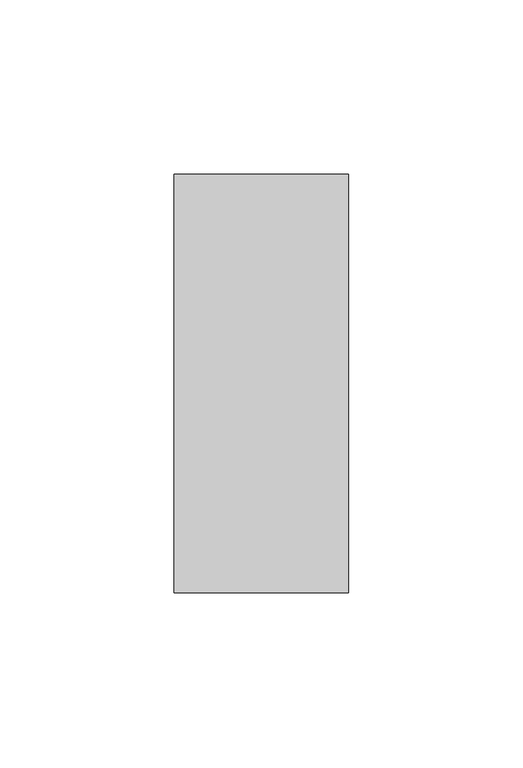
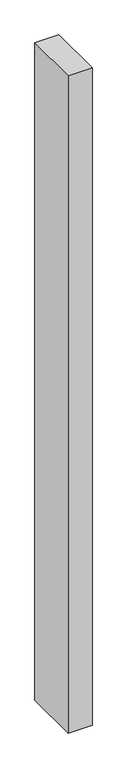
"""IFC4 building model written with IfcOpenShell, lengths in millimetres: member geometry, Прямоугольный импост : 50х120 мм."""

import ifcopenshell
import ifcopenshell.guid

model = None  # the IFC model being written
_history = None  # IfcOwnerHistory: only IFC2X3 demands one
_inside = {}  # id of a spatial element -> (the spatial element, [elements in it])
_under = {}  # id of a project, library or spatial element -> (it, [spatial elements below it])
_declared = {}  # id of a project -> (the project, [libraries it declares])
_typed = {}  # id of a type object -> (the type object, [elements of that type])
_made_of = {}  # id of a material, layer set ... -> (it, [elements and type objects made of it])


def new_model(schema):
    """Start an empty IFC model of exactly this schema.

    Asked for "IFC4X3", IfcOpenShell would pick the latest addendum, in which some entities
    have other attributes; the version numbers below select the first issue.
    IFC2X3 requires an IfcOwnerHistory on every rooted entity: one is made here for all.
    """
    global model, _history
    if schema == "IFC4X3":
        model = ifcopenshell.file(schema_version=(4, 3, 0, 0))
    else:
        model = ifcopenshell.file(schema=schema)
    _inside.clear()
    _under.clear()
    _declared.clear()
    _typed.clear()
    _made_of.clear()
    _history = None
    if model.schema == "IFC2X3":
        org = make("IfcOrganization", Name="unknown")
        user = make(
            "IfcPersonAndOrganization",
            ThePerson=make("IfcPerson", FamilyName="unknown"),
            TheOrganization=org,
        )
        app = make(
            "IfcApplication",
            ApplicationDeveloper=org,
            Version="unknown",
            ApplicationFullName="unknown",
            ApplicationIdentifier="unknown",
        )
        _history = make(
            "IfcOwnerHistory",
            OwningUser=user,
            OwningApplication=app,
            ChangeAction="ADDED",
            CreationDate=0,
        )
    return model


def make(cls, **values):
    """One entity of the class cls with the attributes given. An attribute that is None is left unset."""
    return model.create_entity(
        cls, **{name: value for name, value in values.items() if value is not None}
    )


def rooted(cls, **values):
    """An entity with a GlobalId (a new one), such as an element, a storey or a relation."""
    return make(cls, GlobalId=ifcopenshell.guid.new(), OwnerHistory=_history, **values)


def si_unit(unit_type, name, prefix=None):
    """IfcSIUnit, for example si_unit("LENGTHUNIT", "METRE", prefix="MILLI")."""
    return make("IfcSIUnit", UnitType=unit_type, Prefix=prefix, Name=name)


def assignment(units):
    """IfcUnitAssignment: the units of a project."""
    return None if units is None else make("IfcUnitAssignment", Units=units)


def point(xyz):
    """IfcCartesianPoint."""
    return None if xyz is None else make("IfcCartesianPoint", Coordinates=xyz)


def direction(xyz):
    """IfcDirection."""
    return None if xyz is None else make("IfcDirection", DirectionRatios=xyz)


def frame(location, z_axis=None, x_axis=None):
    """IfcAxis2Placement3D, a coordinate frame: its origin and axes. An axis left out is left unset."""
    return make(
        "IfcAxis2Placement3D",
        Location=point(location),
        Axis=direction(z_axis),
        RefDirection=direction(x_axis),
    )


def origin():
    """The frame at (0, 0, 0) with its axes left unset."""
    return frame((0.0, 0.0, 0.0))


def place(relative_to, where):
    """IfcLocalPlacement: puts the frame where relative to a parent placement (None: the world)."""
    return make(
        "IfcLocalPlacement", PlacementRelTo=relative_to, RelativePlacement=where
    )


def context(
    kind, dimensions, precision=None, world=None, true_north=None, identifier=None
):
    """IfcGeometricRepresentationContext, for example the 3D "Model" context."""
    return make(
        "IfcGeometricRepresentationContext",
        ContextIdentifier=identifier,
        ContextType=kind,
        CoordinateSpaceDimension=dimensions,
        Precision=precision,
        WorldCoordinateSystem=world,
        TrueNorth=true_north,
    )


def project(units=None, contexts=None):
    """IfcProject with its units and contexts."""
    return rooted(
        "IfcProject",
        Name="project",
        RepresentationContexts=contexts,
        UnitsInContext=assignment(units),
    )


def spatial(cls, under=None, at=None, **own):
    """A site, building, storey or space (cls), placed at a placement, below another one or the project."""
    s = rooted(cls, ObjectPlacement=at, **own)
    if under is not None:
        _under.setdefault(under.id(), (under, []))[1].append(s)
    return s


def polyline(points):
    """IfcPolyline through the points."""
    return make("IfcPolyline", Points=[point(p) for p in points])


def outline(outer, holes=None, kind="AREA"):
    """IfcArbitraryClosedProfileDef: a profile drawn as a closed curve; with holes, ...WithVoids."""
    if holes is None:
        return make("IfcArbitraryClosedProfileDef", ProfileType=kind, OuterCurve=outer)
    return make(
        "IfcArbitraryProfileDefWithVoids",
        ProfileType=kind,
        OuterCurve=outer,
        InnerCurves=holes,
    )


def extrude(swept, where, along, depth):
    """IfcExtrudedAreaSolid: the profile swept, set in the frame where, extruded along a direction by depth."""
    return make(
        "IfcExtrudedAreaSolid",
        SweptArea=swept,
        Position=where,
        ExtrudedDirection=direction(along),
        Depth=depth,
    )


def shape(context_of_items, identifier, shape_type, items):
    """IfcShapeRepresentation: the items that make up one representation, for example the "Body"."""
    return make(
        "IfcShapeRepresentation",
        ContextOfItems=context_of_items,
        RepresentationIdentifier=identifier,
        RepresentationType=shape_type,
        Items=items,
    )


def source(mapping_origin, context_of_items, identifier, shape_type, items):
    """IfcRepresentationMap: a shape defined once, which mapped items show again and again."""
    return make(
        "IfcRepresentationMap",
        MappingOrigin=mapping_origin,
        MappedRepresentation=shape(context_of_items, identifier, shape_type, items),
    )


def transform(
    local_origin,
    x_axis=None,
    y_axis=None,
    z_axis=None,
    scale=None,
    scale2=None,
    scale3=None,
    uniform=True,
):
    """IfcCartesianTransformationOperator3D, or its non-uniform kind. x_axis, y_axis, z_axis: its Axis1, 2, 3."""
    if uniform:
        return make(
            "IfcCartesianTransformationOperator3D",
            Axis1=direction(x_axis),
            Axis2=direction(y_axis),
            LocalOrigin=point(local_origin),
            Scale=scale,
            Axis3=direction(z_axis),
        )
    return make(
        "IfcCartesianTransformationOperator3DnonUniform",
        Axis1=direction(x_axis),
        Axis2=direction(y_axis),
        LocalOrigin=point(local_origin),
        Scale=scale,
        Axis3=direction(z_axis),
        Scale2=scale2,
        Scale3=scale3,
    )


def mapped(mapping_source, mapping_target):
    """IfcMappedItem: shows the shape of a source again, moved by a transform."""
    return make(
        "IfcMappedItem", MappingSource=mapping_source, MappingTarget=mapping_target
    )


def made_of(thing, what):
    """Note that an element or type object is made of a material, layer set ...; save() writes the relation."""
    if what is not None:
        _made_of.setdefault(what.id(), (what, []))[1].append(thing)
    return thing


def element(
    cls,
    number,
    at=None,
    inside=None,
    cuts=None,
    type_object=None,
    material=None,
    context=None,
    identifier="Body",
    shape_type=None,
    held_by="IfcProductDefinitionShape",
    body=None,
    shapes=None,
    **own,
):
    """One element of the class cls, such as IfcWall. Its Tag is "e" and its number.

    at: its placement. inside: the storey or other place that contains it. cuts: it is an
    opening in that element (IfcRelVoidsElement). A single representation is given by context,
    identifier, shape_type and body (its items); several are given by shapes. held_by: the class
    of the entity that holds the representations. save() writes the other relations.
    """
    e = rooted(cls, Tag="e%d" % number, ObjectPlacement=at, **own)
    if body is not None:
        shapes = [shape(context, identifier, shape_type, body)]
    if shapes is not None:
        e.Representation = make(held_by, Representations=shapes)
    if inside is not None:
        _inside.setdefault(inside.id(), (inside, []))[1].append(e)
    if cuts is not None:
        rooted(
            "IfcRelVoidsElement", RelatingBuildingElement=cuts, RelatedOpeningElement=e
        )
    if type_object is not None:
        _typed.setdefault(type_object.id(), (type_object, []))[1].append(e)
    return made_of(e, material)


def aggregate(whole, parts):
    """IfcRelAggregates: a whole, such as a stair, and the parts it consists of."""
    return rooted("IfcRelAggregates", RelatingObject=whole, RelatedObjects=parts)


def save(model, path):
    """Write the relations noted so far, then the file.

    IfcRelAggregates (storeys below a building ...), IfcRelContainedInSpatialStructure (elements
    in a storey), IfcRelDefinesByType, IfcRelAssociatesMaterial and IfcRelDeclares: one each for
    every whole, place, type object, material and project.
    """
    for whole, parts in _under.values():
        aggregate(whole, parts)
    for where, things in _inside.values():
        rooted(
            "IfcRelContainedInSpatialStructure",
            RelatedElements=things,
            RelatingStructure=where,
        )
    for kind, things in _typed.values():
        rooted("IfcRelDefinesByType", RelatedObjects=things, RelatingType=kind)
    for what, things in _made_of.values():
        rooted("IfcRelAssociatesMaterial", RelatedObjects=things, RelatingMaterial=what)
    for by, libraries in _declared.values():
        rooted("IfcRelDeclares", RelatingContext=by, RelatedDefinitions=libraries)
    model.write(path)


def member_9f80fade(model_context):
    return source(origin(), model_context, "Body", "SweptSolid", [
        extrude(outline(polyline([(0.0, 60.0), (0.0, -60.0), (-50.0, -60.0), (-50.0, 60.0), (0.0, 60.0)])), frame((0.0, 0.0, -1450.0), z_axis=(0.0, 0.0, 1.0), x_axis=(1.0, 0.0, 0.0)), (0.0, 0.0, 1.0), 1450.0),
    ])


if __name__ == "__main__":
    model = new_model("IFC4")
    model_context = context("Model", 3, world=origin())
    ifc_project = project(units=[si_unit("LENGTHUNIT", "METRE", prefix="MILLI")], contexts=[model_context])
    site = spatial("IfcSite", under=ifc_project)
    building = spatial("IfcBuilding", under=site)
    placement = place(None, origin())
    member_shape = member_9f80fade(model_context)
    element("IfcMember", 1, ObjectType="Прямоугольный импост : 50х120 мм", at=placement, inside=building, context=model_context, shape_type="MappedRepresentation", body=[
        mapped(member_shape, transform((0.0, 0.0, 0.0), x_axis=(1.0, 0.0, 0.0), y_axis=(0.0, 1.0, 0.0), z_axis=(0.0, 0.0, 1.0))),
    ])
    save(model, "model.ifc")
